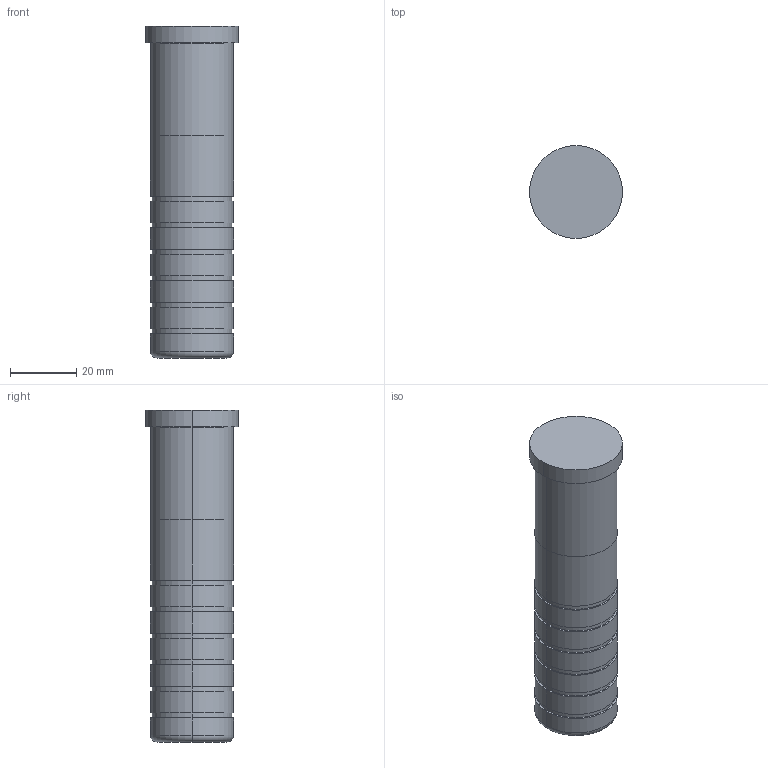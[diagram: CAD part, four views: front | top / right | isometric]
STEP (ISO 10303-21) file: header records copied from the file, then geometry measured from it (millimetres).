
FILE_DESCRIPTION(/* description */ (''),/* implementation_level */ '2;1');
FILE_NAME(/* name */ '3d_sgoh25-100_05203_r00.stp',/* time_stamp */ '2011-01-10T14:11:08+09:00',/* author */ ('MISUMI'),/* organization */ (''),/* preprocessor_version */ 'ST-DEVELOPER v11',/* originating_system */ 'UGS - NX 5.0',/* authorisation */ '');
FILE_SCHEMA (('CONFIG_CONTROL_DESIGN'));
Length unit declared in the file: millimetre
Products named in the file (1): 3d_sgoh25-100_05203_r00
Bounding box: 28 x 28 x 100 mm (x, y, z)
Volume: 49301.5 mm3; surface area: 9488.6 mm2
Topology: 1 solids, 1 shells, 49 faces, 96 edges, 62 vertices
Faces by surface type: cylinder 30, plane 15, torus 4
Entity records: 1374 total; most frequent: DIRECTION 262, CARTESIAN_POINT 208, ORIENTED_EDGE 192, AXIS2_PLACEMENT_3D 116, EDGE_CURVE 96, CIRCLE 66, EDGE_LOOP 62, VERTEX_POINT 62
